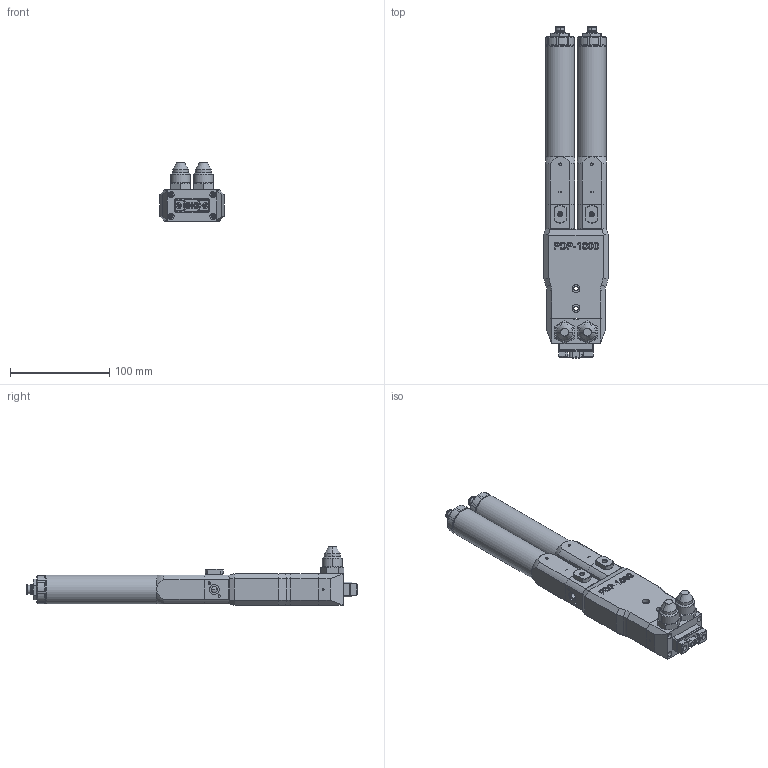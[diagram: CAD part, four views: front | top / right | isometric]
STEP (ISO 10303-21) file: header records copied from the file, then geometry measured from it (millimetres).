
FILE_DESCRIPTION (( 'STEP AP214' ), '1' );
FILE_NAME ('PDPM-1000BA.STEP', '2024-10-11T12:23:08', ( '' ), ( '' ), 'SwSTEP 2.0', 'SolidWorks 2024', '' );
FILE_SCHEMA (( 'AUTOMOTIVE_DESIGN' ));
Length unit declared in the file: millimetre
Products named in the file (1): PDPM-1000BA
Bounding box: 65 x 335 x 59.3 mm (x, y, z)
Volume: 507054.9 mm3; surface area: 122536.9 mm2
Topology: 13 solids, 13 shells, 1491 faces, 3744 edges, 2376 vertices
Faces by surface type: plane 582, cylinder 540, cone 277, bspline 74, torus 12, sphere 6
Full cylindrical faces by diameter (mm): 29 x2
Entity records: 68632 total; most frequent: CARTESIAN_POINT 33838, ORIENTED_EDGE 7398, DIRECTION 6967, EDGE_CURVE 3699, AXIS2_PLACEMENT_3D 2610, VERTEX_POINT 2375, VECTOR 1747, LINE 1747
